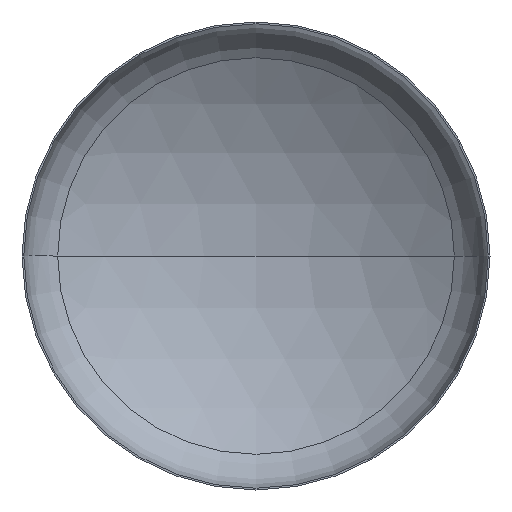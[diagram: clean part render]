
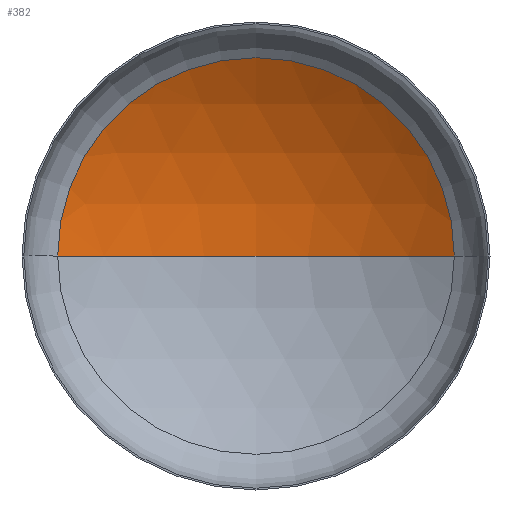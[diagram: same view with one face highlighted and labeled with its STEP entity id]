
A CAD part, front view. The second image highlights one B-rep face of the part: STEP entity #382.
In plain terms, the highlighted spherical face has radius 4000 mm.
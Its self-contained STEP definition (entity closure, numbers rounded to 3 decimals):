
#8 = ORIENTED_EDGE ( 'NONE', *, *, #388, .F. ) ;
#12 = EDGE_LOOP ( 'NONE', ( #8, #127, #47 ) ) ;
#19 = AXIS2_PLACEMENT_3D ( 'NONE', #26, #143, #185 ) ;
#21 = AXIS2_PLACEMENT_3D ( 'NONE', #323, #151, #57 ) ;
#26 = CARTESIAN_POINT ( 'NONE',  ( 0., -2679.595, 0. ) ) ;
#30 = VERTEX_POINT ( 'NONE', #245 ) ;
#39 = VERTEX_POINT ( 'NONE', #244 ) ;
#47 = ORIENTED_EDGE ( 'NONE', *, *, #348, .T. ) ;
#57 = DIRECTION ( 'NONE',  ( 1., 0., 0. ) ) ;
#73 = VERTEX_POINT ( 'NONE', #219 ) ;
#109 = FACE_OUTER_BOUND ( 'NONE', #12, .T. ) ;
#114 = DIRECTION ( 'NONE',  ( 1., 0., 0. ) ) ;
#121 = CIRCLE ( 'NONE', #19, 4000. ) ;
#127 = ORIENTED_EDGE ( 'NONE', *, *, #351, .T. ) ;
#143 = DIRECTION ( 'NONE',  ( 0., 0., -1. ) ) ;
#151 = DIRECTION ( 'NONE',  ( 0., -1., 0. ) ) ;
#158 = CARTESIAN_POINT ( 'NONE',  ( 0., -2679.595, 0. ) ) ;
#185 = DIRECTION ( 'NONE',  ( -1., 0., 0. ) ) ;
#191 = CARTESIAN_POINT ( 'NONE',  ( 0., -2679.595, 0. ) ) ;
#198 = SPHERICAL_SURFACE ( 'NONE', #314, 4000. ) ;
#219 = CARTESIAN_POINT ( 'NONE',  ( 2118.885, 713.092, 0. ) ) ;
#221 = DIRECTION ( 'NONE',  ( 0., 0., -1. ) ) ;
#224 = CIRCLE ( 'NONE', #21, 2118.885 ) ;
#244 = CARTESIAN_POINT ( 'NONE',  ( 0., 1320.405, 0. ) ) ;
#245 = CARTESIAN_POINT ( 'NONE',  ( -2118.885, 713.092, 0. ) ) ;
#277 = DIRECTION ( 'NONE',  ( -1., 0., 0. ) ) ;
#304 = DIRECTION ( 'NONE',  ( 0., 0., 1. ) ) ;
#314 = AXIS2_PLACEMENT_3D ( 'NONE', #158, #221, #277 ) ;
#323 = CARTESIAN_POINT ( 'NONE',  ( 0., 713.092, 0. ) ) ;
#334 = AXIS2_PLACEMENT_3D ( 'NONE', #191, #304, #114 ) ;
#348 = EDGE_CURVE ( 'NONE', #73, #30, #224, .T. ) ;
#351 = EDGE_CURVE ( 'NONE', #39, #73, #121, .T. ) ;
#382 = ADVANCED_FACE ( 'NONE', ( #109 ), #198, .F. ) ;
#388 = EDGE_CURVE ( 'NONE', #39, #30, #395, .T. ) ;
#395 = CIRCLE ( 'NONE', #334, 4000. ) ;
